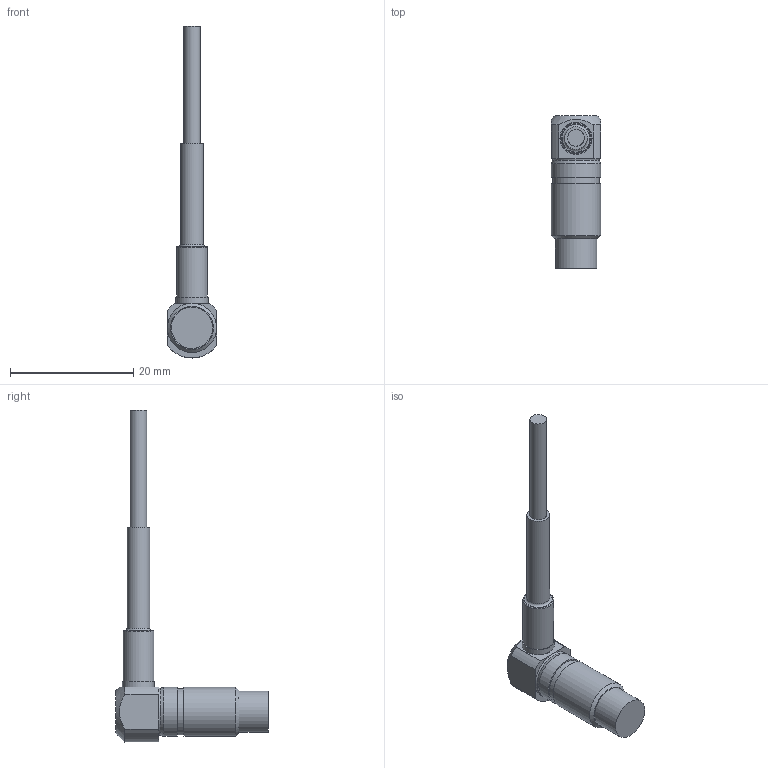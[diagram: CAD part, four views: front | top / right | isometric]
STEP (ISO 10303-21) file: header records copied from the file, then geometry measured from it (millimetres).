
FILE_DESCRIPTION( ( 'STEP AP214' ), '1' );
FILE_NAME( 'N:/Engineering/CAD_Solid/Wirbelstrom/Wirbelstromsensoren/T2/T2_S_KR.stp', '2011-12-15T11:16:33', ( ' ' ), ( ' ' ), 'XStep 1.0', ' ', ' ' );
FILE_SCHEMA( ( 'CONFIG_CONTROL_DESIGN) ( )' ) );
Length unit declared in the file: metre
Products named in the file (5): 1; 2; 3; 4; 5
Bounding box: 8 x 24.8 x 53.9 mm (x, y, z)
Surface area: 1480.9 mm2 (no closed solid volume)
Topology: 0 solids, 32 shells, 32 faces, 106 edges, 92 vertices
Faces by surface type: plane 15, cylinder 11, torus 3, cone 3
Full cylindrical faces by diameter (mm): 2.7 x1, 3.7 x1, 5 x1, 5.2 x1, 6.7 x1, 7.5 x1, 8 x2
Entity records: 1316 total; most frequent: CARTESIAN_POINT 303, DIRECTION 218, AXIS2_PLACEMENT_3D 97, ORIENTED_EDGE 90, EDGE_CURVE 90, VERTEX_POINT 90, CIRCLE 60, FACE_BOUND 53
